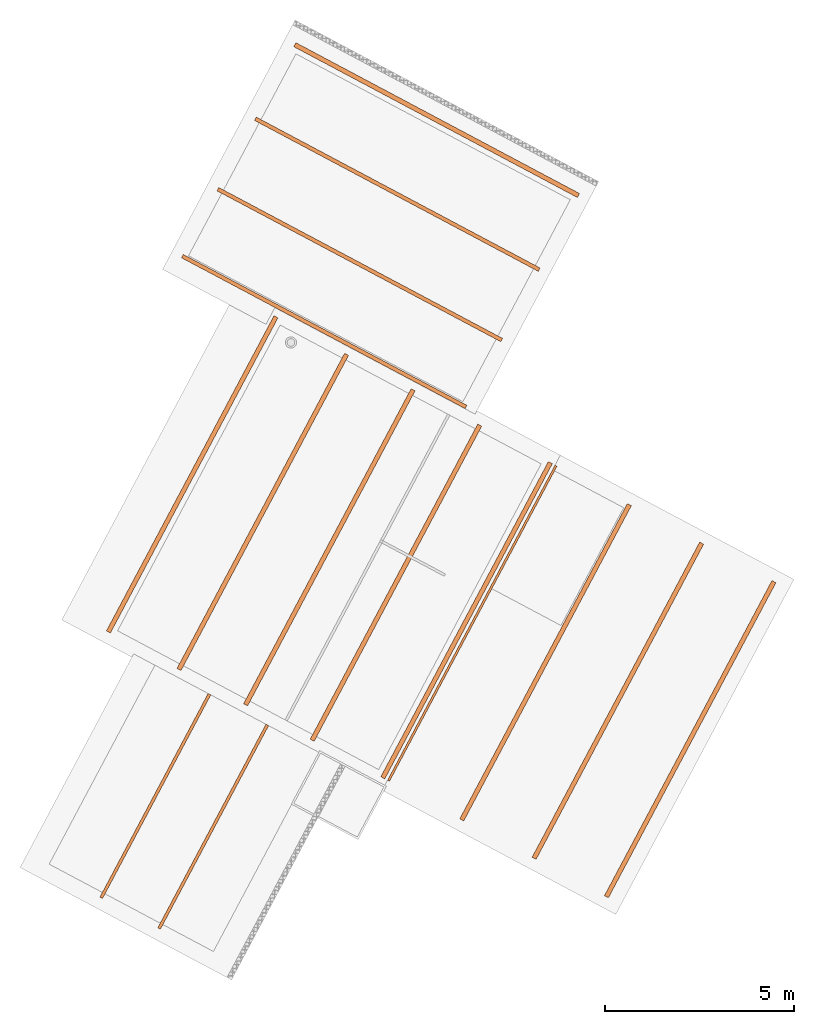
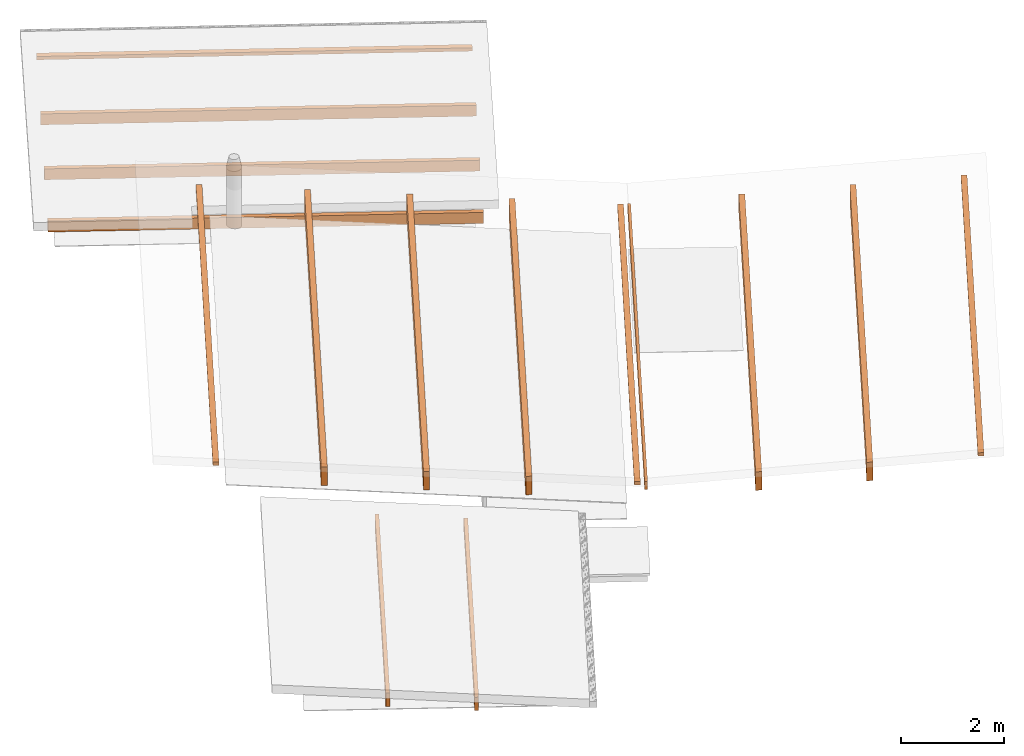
# One storey, part 2 of 4: 15 proxies.
"""IFC2X3 building model written with IfcOpenShell, lengths in metres."""

from ifc_helpers import new_model, entity, si_unit, converted_unit, derived_unit, money_unit, direction, frame, origin_with_axes, place, context, subcontext, project, spatial, faceted_brep, source, transform, mapped, type_object, element, save


model = new_model("IFC2X3")

# Units and contexts
model_context = context("Model", 3, precision=1e-05, world=origin_with_axes(), true_north=direction((0.0, 1.0)))
body_context = subcontext(model_context, "Body", "Model", "MODEL_VIEW")
ifc_project = project(units=[si_unit("LENGTHUNIT", "METRE"), si_unit("AREAUNIT", "SQUARE_METRE"), si_unit("VOLUMEUNIT", "CUBIC_METRE"), converted_unit("PLANEANGLEUNIT", "DEGREE", entity("IfcPlaneAngleMeasure", 0.0174532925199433), si_unit("PLANEANGLEUNIT", "RADIAN"), dimensions=[0, 0, 0, 0, 0, 0, 0]), money_unit("CHF"), converted_unit("TIMEUNIT", "Year", entity("IfcTimeMeasure", 31557600.0), si_unit("TIMEUNIT", "SECOND"), dimensions=[0, 0, 1, 0, 0, 0, 0]), si_unit("MASSUNIT", "GRAM", prefix="KILO"), si_unit("THERMODYNAMICTEMPERATUREUNIT", "DEGREE_CELSIUS"), si_unit("LUMINOUSINTENSITYUNIT", "LUMEN"), si_unit("ENERGYUNIT", "JOULE", prefix="MEGA"), derived_unit("THERMALCONDUCTANCEUNIT", [(si_unit("POWERUNIT", "WATT"), 1), (si_unit("LENGTHUNIT", "METRE"), -1), (si_unit("THERMODYNAMICTEMPERATUREUNIT", "KELVIN"), -1)]), derived_unit("SPECIFICHEATCAPACITYUNIT", [(si_unit("ENERGYUNIT", "JOULE"), 1), (si_unit("MASSUNIT", "GRAM", prefix="KILO"), -1), (si_unit("THERMODYNAMICTEMPERATUREUNIT", "KELVIN"), -1)]), derived_unit("MASSDENSITYUNIT", [(si_unit("MASSUNIT", "GRAM", prefix="KILO"), 1), (si_unit("VOLUMEUNIT", "CUBIC_METRE"), -1)])], contexts=[model_context])

# Site, building, storey
site_placement = place(None, frame((0.0, 0.0, 0.0), z_axis=(0.0, 0.0, 1.0), x_axis=(-0.4694715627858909, -0.8829475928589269, 0.0)))
site = spatial("IfcSite", under=ifc_project, at=site_placement, Name="Site", CompositionType="ELEMENT")
building_placement = place(site_placement, origin_with_axes())
building = spatial("IfcBuilding", under=site, at=building_placement, Name="Bâtiment", CompositionType="ELEMENT")
storey_placement = place(building_placement, frame((0.0, 0.0, 2.7), z_axis=(0.0, 0.0, 1.0), x_axis=(1.0, 0.0, 0.0)))
storey = spatial("IfcBuildingStorey", under=building, at=storey_placement, Name="toiture", CompositionType="ELEMENT", Elevation=2.7)

# Proxies
building_element_proxy_type = type_object("IfcBuildingElementProxyType", Name="Panne 20", PredefinedType="NOTDEFINED")
shared_shape_1 = source(origin_with_axes(), body_context, "Body", "Brep", [
    faceted_brep([(0.0, -0.06, 0.07999999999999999), (0.0, -0.06, 0.0), (9.440000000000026, -0.06, 0.0), (9.440000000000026, -0.06, 0.08000000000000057), (0.0, 0.06, 0.08000000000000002), (0.0, 0.06, 0.0), (9.440000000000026, 0.06, 0.0), (9.440000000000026, 0.06, 0.08000000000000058)], [[[0, 1, 2, 3]], [[0, 4, 5, 1]], [[1, 5, 6, 2]], [[3, 2, 6, 7]], [[4, 0, 3, 7]], [[5, 4, 7, 6]]]),
])
for number, where, z_axis, x_axis, name in (
    (1, (133.8895710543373, -828.83459910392, 0.7119999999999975), (0.0, 0.0, 1.0), (1.0, 0.0, 0.0), "Obj.-481"),
    (2, (133.8895710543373, -822.13459910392, 1.232000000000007), (0.0, 0.0, 1.0), (1.0, 0.0, 0.0), "Obj.-481"),
    (3, (133.8895710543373, -837.0545991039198, 1.37599999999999), (0.0, 0.0, 1.0), (1.0, 0.0, 0.0), "Obj.-481"),
):
    element("IfcBuildingElementProxy", number, at=place(storey_placement, frame(where, z_axis=z_axis, x_axis=x_axis)), inside=storey, type_object=building_element_proxy_type, Name=name, context=body_context, shape_type="MappedRepresentation", body=[
        mapped(shared_shape_1, transform((0.0, 0.0, 0.0))),
    ])
shared_shape_2 = source(origin_with_axes(), body_context, "Body", "Brep", [
    faceted_brep([(0.0, -0.06000000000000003, 0.44), (0.0, -0.06, 0.0), (9.440000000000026, -0.06, 0.0), (9.440000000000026, -0.06000000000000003, 0.4400000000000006), (0.0, 0.05999999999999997, 0.44), (0.0, 0.06, 0.0), (9.440000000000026, 0.06, 0.0), (9.440000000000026, 0.05999999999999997, 0.4400000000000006)], [[[0, 1, 2, 3]], [[0, 4, 5, 1]], [[1, 5, 6, 2]], [[3, 2, 6, 7]], [[4, 0, 3, 7]], [[5, 4, 7, 6]]]),
])
for number, where, z_axis, x_axis, name in (
    (4, (133.8895710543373, -830.9505652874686, 0.527677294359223), (0.0, 0.0, 1.0), (1.0, 0.0, 0.0), "Obj.-481"),
    (5, (133.8895710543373, -824.3012657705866, 0.6986666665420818), (0.0, 0.0, 1.0), (1.0, 0.0, 0.0), "Obj.-481"),
    (6, (133.8895710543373, -832.9452432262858, 0.6872515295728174), (0.0, 0.0, 1.0), (1.0, 0.0, 0.0), "Obj.-481"),
    (7, (133.8895710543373, -834.9399211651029, 0.8468257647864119), (0.0, 0.0, 1.0), (1.0, 0.0, 0.0), "Obj.-481"),
    (8, (133.8895710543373, -826.4679324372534, 0.5253333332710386), (0.0, 0.0, 1.0), (1.0, 0.0, 0.0), "Obj.-481"),
):
    element("IfcBuildingElementProxy", number, at=place(storey_placement, frame(where, z_axis=z_axis, x_axis=x_axis)), inside=storey, type_object=building_element_proxy_type, Name=name, context=body_context, shape_type="MappedRepresentation", body=[
        mapped(shared_shape_2, transform((0.0, 0.0, 0.0))),
    ])
shared_shape_3 = source(origin_with_axes(), body_context, "Body", "Brep", [
    faceted_brep([(0.0, -0.04000000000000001, 0.32), (0.0, -0.04, 0.0), (6.099999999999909, -0.04, 0.0), (6.099999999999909, -0.04000000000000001, 0.3200000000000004), (0.0, 0.03999999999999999, 0.32), (0.0, 0.04, 0.0), (6.099999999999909, 0.04, 0.0), (6.099999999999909, 0.03999999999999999, 0.3200000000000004)], [[[0, 1, 2, 3]], [[0, 4, 5, 1]], [[1, 5, 6, 2]], [[3, 2, 6, 7]], [[4, 0, 3, 7]], [[5, 4, 7, 6]]]),
])
for number, where, z_axis, x_axis, name in (
    (9, (143.5295710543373, -833.9212657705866, -0.033066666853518), (0.0, 0.0, 1.0), (1.0, 0.0, 0.0), "Obj.-481"),
    (10, (143.5295710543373, -832.1879324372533, -0.1717333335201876), (0.0, 0.0, 1.0), (1.0, 0.0, 0.0), "Obj.-481"),
):
    element("IfcBuildingElementProxy", number, at=place(storey_placement, frame(where, z_axis=z_axis, x_axis=x_axis)), inside=storey, type_object=building_element_proxy_type, Name=name, context=body_context, shape_type="MappedRepresentation", body=[
        mapped(shared_shape_3, transform((0.0, 0.0, 0.0))),
    ])
shared_shape_4 = source(origin_with_axes(), body_context, "Body", "Brep", [
    faceted_brep([(0.0, -0.05000000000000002, 0.26), (0.0, -0.05, 0.0), (8.499999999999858, -0.05, 0.0), (8.499999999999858, -0.05000000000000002, 0.2600000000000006), (0.0, 0.04999999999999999, 0.26), (0.0, 0.05, 0.0), (8.499999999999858, 0.05, 0.0), (8.499999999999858, 0.04999999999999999, 0.2600000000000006)], [[[0, 1, 2, 3]], [[0, 4, 5, 1]], [[1, 5, 6, 2]], [[3, 2, 6, 7]], [[4, 0, 3, 7]], [[5, 4, 7, 6]]]),
])
for number, where, z_axis, x_axis, name in (
    (11, (133.6345710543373, -839.9945991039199, 0.2487433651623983), (0.0, 0.0, 1.0), (0.0, 1.0, 0.0), "Obj.-481"),
    (12, (131.6295710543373, -839.9945991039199, 0.08834336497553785), (0.0, 0.0, 1.0), (0.0, 1.0, 0.0), "Obj.-481"),
    (13, (129.5195710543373, -839.9945991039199, -0.08045663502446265), (0.0, 0.0, 1.0), (0.0, 1.0, 0.0), "Obj.-481"),
):
    element("IfcBuildingElementProxy", number, at=place(storey_placement, frame(where, z_axis=z_axis, x_axis=x_axis)), inside=storey, type_object=building_element_proxy_type, Name=name, context=body_context, shape_type="MappedRepresentation", body=[
        mapped(shared_shape_4, transform((0.0, 0.0, 0.0))),
    ])
proxy_1_placement = place(storey_placement, frame((133.8895710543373, -828.66459910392, 0.5919999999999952), z_axis=(0.0, 0.0, 1.0), x_axis=(1.0, 0.0, 0.0)))
element("IfcBuildingElementProxy", 14, at=proxy_1_placement, inside=storey, type_object=building_element_proxy_type, Name="Obj.-481", context=body_context, shape_type="Brep", body=[
    faceted_brep([(0.0, -0.03000000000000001, 0.2), (0.0, -0.03, 0.0), (9.440000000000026, -0.03, 0.0), (9.440000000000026, -0.03000000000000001, 0.2000000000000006), (0.0, 0.02999999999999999, 0.2), (0.0, 0.03, 0.0), (9.440000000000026, 0.03, 0.0), (9.440000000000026, 0.02999999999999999, 0.2000000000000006)], [[[0, 1, 2, 3]], [[0, 4, 5, 1]], [[1, 5, 6, 2]], [[3, 2, 6, 7]], [[4, 0, 3, 7]], [[5, 4, 7, 6]]]),
])
proxy_2_placement = place(storey_placement, frame((127.2995710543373, -839.9945991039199, -0.08000000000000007), z_axis=(0.0, 0.0, 1.0), x_axis=(0.0, 1.0, 0.0)))
element("IfcBuildingElementProxy", 15, at=proxy_2_placement, inside=storey, type_object=building_element_proxy_type, Name="Obj.-481", context=body_context, shape_type="Brep", body=[
    faceted_brep([(0.0, -0.06, 0.07999999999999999), (0.0, -0.06, 0.0), (8.499999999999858, -0.06, 0.0), (8.499999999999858, -0.06, 0.08000000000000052), (0.0, 0.06, 0.08000000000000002), (0.0, 0.06, 0.0), (8.499999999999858, 0.06, 0.0), (8.499999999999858, 0.06, 0.08000000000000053)], [[[0, 1, 2, 3]], [[0, 4, 5, 1]], [[1, 5, 6, 2]], [[3, 2, 6, 7]], [[4, 0, 3, 7]], [[5, 4, 7, 6]]]),
])

save(model, "model.ifc")
